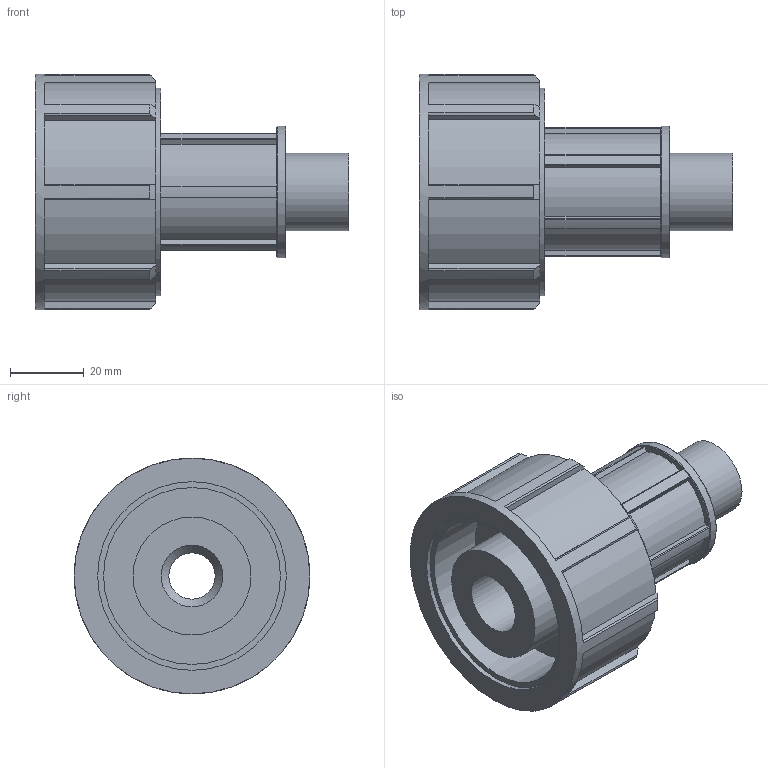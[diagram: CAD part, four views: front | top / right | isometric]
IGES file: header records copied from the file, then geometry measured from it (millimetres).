
Global section: file name: 072500032005_182500032005_0725060320050A.ipt; native system: Autodesk Inventor 2015; preprocessor: unknown; author: KIM; date: 20170608.042138; units: millimetre
Bounding box: 85 x 64 x 64 mm (x, y, z)
Volume: 92034.6 mm3; surface area: 30697.8 mm2
Topology: 1 solids, 1 shells, 115 faces, 322 edges, 217 vertices
Faces by surface type: plane 74, cylinder 25, cone 10, revolution 6
Full cylindrical faces by diameter (mm): 20.955 x1, 32 x1, 35.623 x1, 56.32 x1, 64 x1
